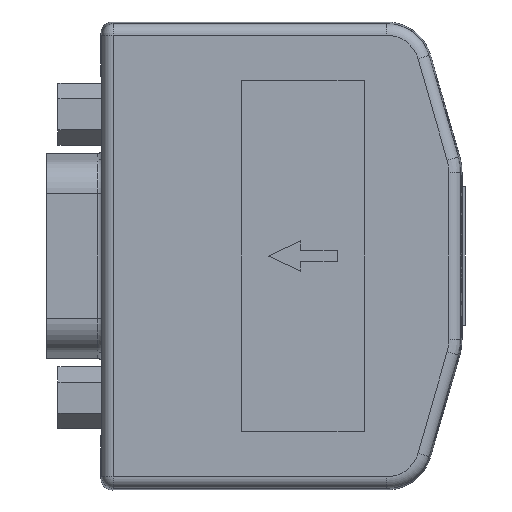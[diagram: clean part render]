
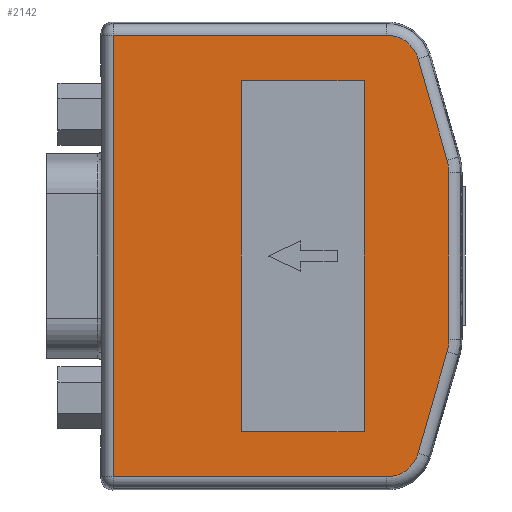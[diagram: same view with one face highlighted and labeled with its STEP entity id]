
A CAD part, front view. The second image highlights one B-rep face of the part: STEP entity #2142.
In plain terms, the highlighted planar face has unit normal (0, -1, 0).
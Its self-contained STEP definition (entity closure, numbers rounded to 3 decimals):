
#1952=ELLIPSE('',#23908,4.002,4.);
#1953=ELLIPSE('',#23909,4.002,4.);
#2142=ADVANCED_FACE('',(#9310,#9311),#3456,.T.);
#3456=PLANE('',#23911);
#5653=LINE('',#32679,#7734);
#5654=LINE('',#32682,#7735);
#5655=LINE('',#32684,#7736);
#5656=LINE('',#32688,#7737);
#5657=LINE('',#32692,#7738);
#5658=LINE('',#32696,#7739);
#5659=LINE('',#32699,#7740);
#5660=LINE('',#32702,#7741);
#5661=LINE('',#32704,#7742);
#5662=LINE('',#32706,#7743);
#7734=VECTOR('',#26242,1.);
#7735=VECTOR('',#26243,1.);
#7736=VECTOR('',#26244,1.);
#7737=VECTOR('',#26247,1.);
#7738=VECTOR('',#26250,1.);
#7739=VECTOR('',#26253,1.);
#7740=VECTOR('',#26256,1.);
#7741=VECTOR('',#26257,1.);
#7742=VECTOR('',#26258,1.);
#7743=VECTOR('',#26259,1.);
#9310=FACE_BOUND('',#9633,.T.);
#9311=FACE_BOUND('',#9634,.T.);
#9633=EDGE_LOOP('',(#12066,#12067,#12068,#12069,#12070,#12071,#12072,#12073,
#12074,#12075));
#9634=EDGE_LOOP('',(#12076,#12077,#12078,#12079));
#12066=ORIENTED_EDGE('',*,*,#20665,.T.);
#12067=ORIENTED_EDGE('',*,*,#20666,.T.);
#12068=ORIENTED_EDGE('',*,*,#20667,.T.);
#12069=ORIENTED_EDGE('',*,*,#20668,.T.);
#12070=ORIENTED_EDGE('',*,*,#20669,.T.);
#12071=ORIENTED_EDGE('',*,*,#20670,.T.);
#12072=ORIENTED_EDGE('',*,*,#20671,.T.);
#12073=ORIENTED_EDGE('',*,*,#20672,.T.);
#12074=ORIENTED_EDGE('',*,*,#20673,.T.);
#12075=ORIENTED_EDGE('',*,*,#20674,.T.);
#12076=ORIENTED_EDGE('',*,*,#20675,.T.);
#12077=ORIENTED_EDGE('',*,*,#20676,.F.);
#12078=ORIENTED_EDGE('',*,*,#20677,.F.);
#12079=ORIENTED_EDGE('',*,*,#20678,.F.);
#18304=VERTEX_POINT('',#32680);
#18305=VERTEX_POINT('',#32681);
#18306=VERTEX_POINT('',#32683);
#18307=VERTEX_POINT('',#32685);
#18308=VERTEX_POINT('',#32687);
#18309=VERTEX_POINT('',#32689);
#18310=VERTEX_POINT('',#32691);
#18311=VERTEX_POINT('',#32693);
#18312=VERTEX_POINT('',#32695);
#18313=VERTEX_POINT('',#32697);
#18314=VERTEX_POINT('',#32700);
#18315=VERTEX_POINT('',#32701);
#18316=VERTEX_POINT('',#32703);
#18317=VERTEX_POINT('',#32705);
#20665=EDGE_CURVE('',#18304,#18305,#5653,.T.);
#20666=EDGE_CURVE('',#18305,#18306,#5654,.T.);
#20667=EDGE_CURVE('',#18306,#18307,#5655,.T.);
#20668=EDGE_CURVE('',#18307,#18308,#23345,.T.);
#20669=EDGE_CURVE('',#18308,#18309,#5656,.T.);
#20670=EDGE_CURVE('',#18309,#18310,#1952,.T.);
#20671=EDGE_CURVE('',#18310,#18311,#5657,.T.);
#20672=EDGE_CURVE('',#18311,#18312,#1953,.T.);
#20673=EDGE_CURVE('',#18312,#18313,#5658,.T.);
#20674=EDGE_CURVE('',#18313,#18304,#23346,.T.);
#20675=EDGE_CURVE('',#18314,#18315,#5659,.T.);
#20676=EDGE_CURVE('',#18316,#18315,#5660,.T.);
#20677=EDGE_CURVE('',#18317,#18316,#5661,.T.);
#20678=EDGE_CURVE('',#18314,#18317,#5662,.T.);
#23345=CIRCLE('',#23907,2.849);
#23346=CIRCLE('',#23910,2.849);
#23907=AXIS2_PLACEMENT_3D('',#32686,#26245,#26246);
#23908=AXIS2_PLACEMENT_3D('',#32690,#26248,#26249);
#23909=AXIS2_PLACEMENT_3D('',#32694,#26251,#26252);
#23910=AXIS2_PLACEMENT_3D('',#32698,#26254,#26255);
#23911=AXIS2_PLACEMENT_3D('',#32707,#26260,#26261);
#26242=DIRECTION('',(-1.,0.,0.));
#26243=DIRECTION('',(0.,0.,-1.));
#26244=DIRECTION('',(1.,0.,0.));
#26245=DIRECTION('',(0.,-1.,0.));
#26246=DIRECTION('',(0.,0.,-1.));
#26247=DIRECTION('',(0.276,0.,0.961));
#26248=DIRECTION('',(0.,-1.,0.));
#26249=DIRECTION('',(-0.99,0.,0.14));
#26250=DIRECTION('',(0.,0.,1.));
#26251=DIRECTION('',(0.,-1.,0.));
#26252=DIRECTION('',(0.99,0.,0.14));
#26253=DIRECTION('',(-0.276,0.,0.961));
#26254=DIRECTION('',(0.,-1.,0.));
#26255=DIRECTION('',(0.,0.,-1.));
#26256=DIRECTION('',(1.,0.,0.));
#26257=DIRECTION('',(0.,0.,1.));
#26258=DIRECTION('',(1.,0.,0.));
#26259=DIRECTION('',(0.,0.,-1.));
#26260=DIRECTION('',(0.,-1.,0.));
#26261=DIRECTION('',(0.,0.,-1.));
#32679=CARTESIAN_POINT('',(-17.05,-4.,19.349));
#32680=CARTESIAN_POINT('',(7.349,-4.,19.349));
#32681=CARTESIAN_POINT('',(-16.601,-4.,19.349));
#32682=CARTESIAN_POINT('',(-16.601,-4.,-20.5));
#32683=CARTESIAN_POINT('',(-16.601,-4.,-19.349));
#32684=CARTESIAN_POINT('',(7.349,-4.,-19.349));
#32685=CARTESIAN_POINT('',(7.349,-4.,-19.349));
#32686=CARTESIAN_POINT('',(7.349,-4.,-16.5));
#32687=CARTESIAN_POINT('',(10.087,-4.,-17.288));
#32688=CARTESIAN_POINT('',(12.642,-4.,-8.404));
#32689=CARTESIAN_POINT('',(12.643,-4.,-8.399));
#32690=CARTESIAN_POINT('',(8.797,-4.,-7.294));
#32691=CARTESIAN_POINT('',(12.799,-4.,-7.294));
#32692=CARTESIAN_POINT('',(12.799,-4.,-20.5));
#32693=CARTESIAN_POINT('',(12.799,-4.,7.294));
#32694=CARTESIAN_POINT('',(8.797,-4.,7.294));
#32695=CARTESIAN_POINT('',(12.643,-4.,8.399));
#32696=CARTESIAN_POINT('',(18.052,-4.,-10.404));
#32697=CARTESIAN_POINT('',(10.087,-4.,17.288));
#32698=CARTESIAN_POINT('',(7.349,-4.,16.5));
#32699=CARTESIAN_POINT('',(-5.375,-4.,15.375));
#32700=CARTESIAN_POINT('',(-5.375,-4.,15.375));
#32701=CARTESIAN_POINT('',(5.375,-4.,15.375));
#32702=CARTESIAN_POINT('',(5.375,-4.,-15.375));
#32703=CARTESIAN_POINT('',(5.375,-4.,-15.375));
#32704=CARTESIAN_POINT('',(-5.375,-4.,-15.375));
#32705=CARTESIAN_POINT('',(-5.375,-4.,-15.375));
#32706=CARTESIAN_POINT('',(-5.375,-4.,15.375));
#32707=CARTESIAN_POINT('',(-17.05,-4.,-20.5));
